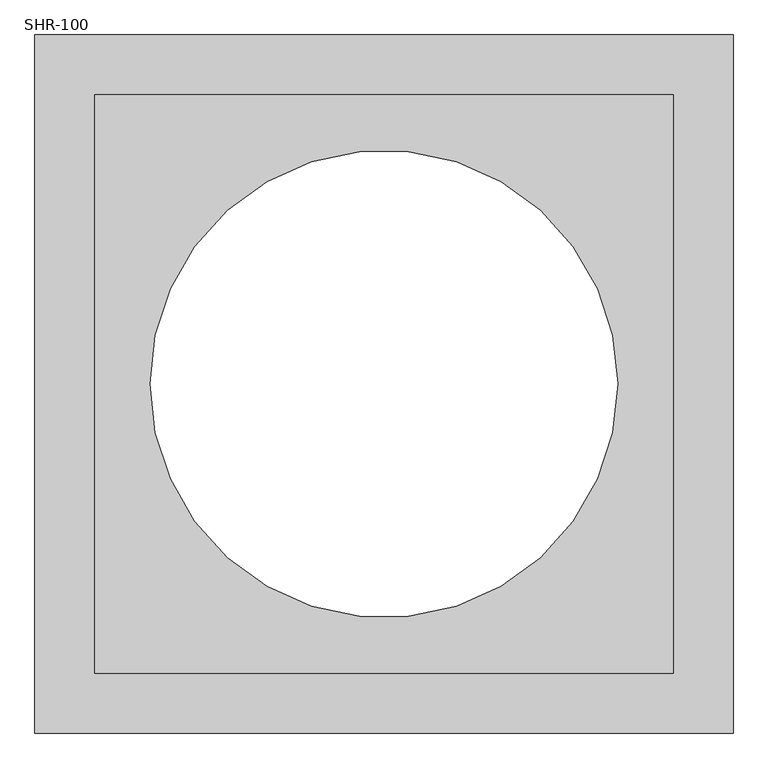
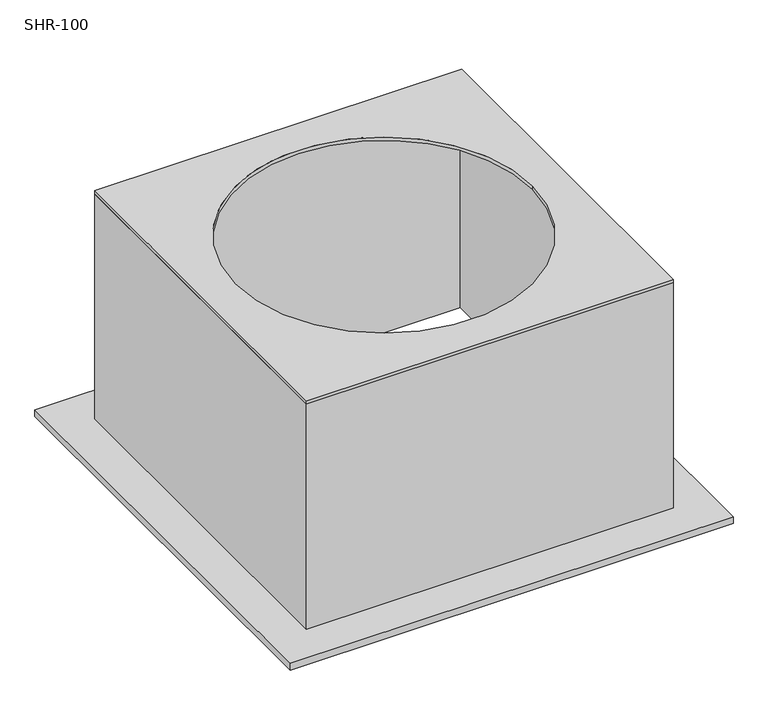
"""IFC4 building model written with IfcOpenShell, lengths in millimetres: damper geometry, СВ_Шумоглушитель_КрышныйПрямоугольный_30-100_SHR : SHR-100."""

from ifc_helpers import new_model, si_unit, point, frame, origin, origin_2d, place, context, project, spatial, polyline, circle_curve, trimmed, segment, composite_curve, outline, extrude, faceted_brep, source, transform, mapped, element, save


def shr_100_1206469c(model_context):
    return source(origin(), model_context, "Body", "SolidModel", [
        extrude(outline(polyline([(520.0, 520.0), (520.0, -520.0), (-520.0, -520.0), (-520.0, 520.0), (520.0, 520.0)]), holes=[composite_curve([segment(trimmed(circle_curve(origin_2d(), 420.0), [point((-420.0, 0.0))], [point((420.0, 0.0))], True, "CARTESIAN"), True, "CONTINUOUS"), segment(trimmed(circle_curve(origin_2d(), 420.0), [point((420.0, 0.0))], [point((-420.0, 0.0))], True, "CARTESIAN"), True, "CONTINUOUS")], self_intersect=False)]), frame((0.0, 0.0, -10.0), z_axis=(0.0, 0.0, 1.0), x_axis=(1.0, 0.0, 0.0)), (0.0, 0.0, 1.0), 10.0),
        faceted_brep([(-627.5, -627.5, -685.0), (627.5, -627.5, -685.0), (627.5, 627.5, -685.0), (-627.5, 627.5, -685.0), (-520.0, 520.0, -685.0), (520.0, 520.0, -685.0), (520.0, -520.0, -685.0), (-520.0, -520.0, -685.0), (-627.5, -627.5, -705.0), (-627.5, 627.5, -705.0), (627.5, 627.5, -705.0), (627.5, -627.5, -705.0), (-510.0, -510.0, -705.0), (510.0, -510.0, -705.0), (510.0, 510.0, -705.0), (-510.0, 510.0, -705.0), (520.0, 520.0, -10.0), (-520.0, 520.0, -10.0), (-520.0, -520.0, -10.0), (520.0, -520.0, -10.0), (-510.0, -510.0, -10.0), (-510.0, 510.0, -10.0), (510.0, 510.0, -10.0), (510.0, -510.0, -10.0)], [[[0, 1, 2, 3], [4, 5, 6, 7]], [[8, 9, 10, 11], [12, 13, 14, 15]], [[1, 0, 8, 11]], [[2, 1, 11, 10]], [[3, 2, 10, 9]], [[0, 3, 9, 8]], [[16, 17, 18, 19], [20, 21, 22, 23]], [[20, 23, 13, 12]], [[23, 22, 14, 13]], [[22, 21, 15, 14]], [[21, 20, 12, 15]], [[17, 16, 5, 4]], [[18, 17, 4, 7]], [[19, 18, 7, 6]], [[16, 19, 6, 5]]]),
    ])


if __name__ == "__main__":
    model = new_model("IFC4")
    model_context = context("Model", 3, world=origin())
    ifc_project = project(units=[si_unit("LENGTHUNIT", "METRE", prefix="MILLI")], contexts=[model_context])
    site = spatial("IfcSite", under=ifc_project)
    building = spatial("IfcBuilding", under=site)
    placement = place(None, origin())
    shr_100_shape = shr_100_1206469c(model_context)
    element("IfcDamper", 1, ObjectType="СВ_Шумоглушитель_КрышныйПрямоугольный_30-100_SHR : SHR-100", at=placement, inside=building, context=model_context, shape_type="MappedRepresentation", body=[
        mapped(shr_100_shape, transform((0.0, 0.0, 0.0), x_axis=(1.0, 0.0, 0.0), y_axis=(0.0, 1.0, 0.0), z_axis=(0.0, 0.0, 1.0))),
    ])
    save(model, "model.ifc")
